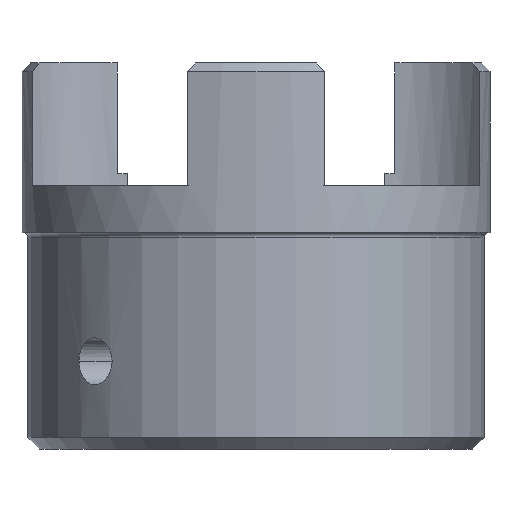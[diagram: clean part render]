
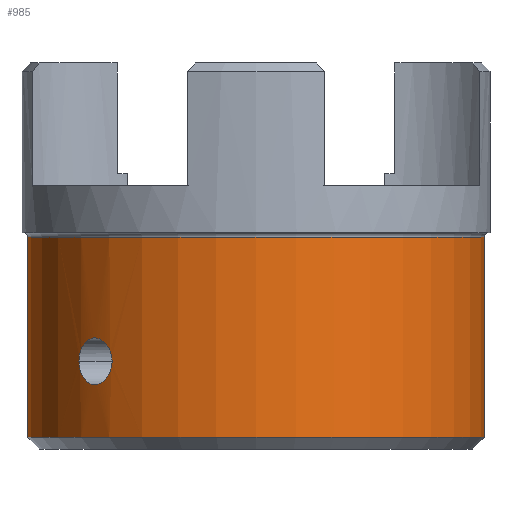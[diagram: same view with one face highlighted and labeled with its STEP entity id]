
A CAD part, left-side view. The second image highlights one B-rep face of the part: STEP entity #985.
In plain terms, the highlighted cylindrical face has radius 39 mm (diameter 78 mm), a partial arc.
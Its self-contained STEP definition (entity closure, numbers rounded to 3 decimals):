
#162=CARTESIAN_POINT('',(0.,0.,-43.));
#163=DIRECTION('',(0.,0.,1.));
#164=DIRECTION('',(0.,1.,0.));
#165=AXIS2_PLACEMENT_3D('',#162,#163,#164);
#180=DIRECTION('',(0.,0.,1.));
#181=VECTOR('',#180,34.2);
#182=CARTESIAN_POINT('',(0.,-39.,-43.));
#183=LINE('',#182,#181);
#184=DIRECTION('',(0.,0.,1.));
#185=VECTOR('',#184,34.2);
#186=CARTESIAN_POINT('',(0.,39.,-43.));
#187=LINE('',#186,#185);
#188=CARTESIAN_POINT('',(-24.603,30.26,-30.));
#189=CARTESIAN_POINT('',(-24.603,30.26,-29.673));
#190=CARTESIAN_POINT('',(-24.664,30.211,-29.038));
#191=CARTESIAN_POINT('',(-24.932,29.991,-28.124));
#192=CARTESIAN_POINT('',(-25.357,29.634,-27.322));
#193=CARTESIAN_POINT('',(-25.91,29.153,-26.675));
#194=CARTESIAN_POINT('',(-26.55,28.572,-26.223));
#195=CARTESIAN_POINT('',(-27.234,27.921,-25.99));
#196=CARTESIAN_POINT('',(-27.921,27.234,-25.99));
#197=CARTESIAN_POINT('',(-28.572,26.55,-26.223));
#198=CARTESIAN_POINT('',(-29.153,25.91,-26.675));
#199=CARTESIAN_POINT('',(-29.634,25.357,-27.322));
#200=CARTESIAN_POINT('',(-29.991,24.932,-28.124));
#201=CARTESIAN_POINT('',(-30.211,24.664,-29.038));
#202=CARTESIAN_POINT('',(-30.26,24.603,-29.673));
#203=CARTESIAN_POINT('',(-30.26,24.603,-30.));
#205=CARTESIAN_POINT('',(-24.603,30.26,-30.));
#206=CARTESIAN_POINT('',(-24.603,30.26,-30.327));
#207=CARTESIAN_POINT('',(-24.664,30.211,-30.962));
#208=CARTESIAN_POINT('',(-24.932,29.991,-31.876));
#209=CARTESIAN_POINT('',(-25.357,29.634,-32.678));
#210=CARTESIAN_POINT('',(-25.91,29.153,-33.325));
#211=CARTESIAN_POINT('',(-26.55,28.572,-33.777));
#212=CARTESIAN_POINT('',(-27.234,27.921,-34.01));
#213=CARTESIAN_POINT('',(-27.921,27.234,-34.01));
#214=CARTESIAN_POINT('',(-28.572,26.55,-33.777));
#215=CARTESIAN_POINT('',(-29.153,25.91,-33.325));
#216=CARTESIAN_POINT('',(-29.634,25.357,-32.678));
#217=CARTESIAN_POINT('',(-29.991,24.932,-31.876));
#218=CARTESIAN_POINT('',(-30.211,24.664,-30.962));
#219=CARTESIAN_POINT('',(-30.26,24.603,-30.327));
#220=CARTESIAN_POINT('',(-30.26,24.603,-30.));
#227=CARTESIAN_POINT('',(0.,0.,-8.8));
#228=DIRECTION('',(0.,0.,-1.));
#229=DIRECTION('',(0.,-1.,0.));
#230=AXIS2_PLACEMENT_3D('',#227,#228,#229);
#633=CARTESIAN_POINT('',(0.,39.,-43.));
#634=CARTESIAN_POINT('',(0.,-39.,-43.));
#635=VERTEX_POINT('',#633);
#636=VERTEX_POINT('',#634);
#645=CARTESIAN_POINT('',(0.,-39.,-8.8));
#646=CARTESIAN_POINT('',(0.,39.,-8.8));
#647=VERTEX_POINT('',#645);
#648=VERTEX_POINT('',#646);
#677=VERTEX_POINT('',#188);
#678=VERTEX_POINT('',#203);
#965=CARTESIAN_POINT('',(0.,0.,-6.15));
#966=DIRECTION('',(0.,0.,-1.));
#967=DIRECTION('',(0.,-1.,0.));
#968=AXIS2_PLACEMENT_3D('',#965,#966,#967);
#969=CYLINDRICAL_SURFACE('',#968,39.);
#971=ORIENTED_EDGE('',*,*,#970,.F.);
#973=ORIENTED_EDGE('',*,*,#972,.F.);
#974=ORIENTED_EDGE('',*,*,#955,.F.);
#976=ORIENTED_EDGE('',*,*,#975,.T.);
#977=EDGE_LOOP('',(#971,#973,#974,#976));
#978=FACE_OUTER_BOUND('',#977,.F.);
#980=ORIENTED_EDGE('',*,*,#979,.F.);
#982=ORIENTED_EDGE('',*,*,#981,.T.);
#983=EDGE_LOOP('',(#980,#982));
#984=FACE_BOUND('',#983,.F.);
#985=ADVANCED_FACE('',(#978,#984),#969,.T.);
#166=CIRCLE('',#165,39.);
#204=B_SPLINE_CURVE_WITH_KNOTS('',3,(#188,#189,#190,#191,#192,#193,#194,#195,
#196,#197,#198,#199,#200,#201,#202,#203),.UNSPECIFIED.,.F.,.F.,(4,1,1,1,1,1,1,1,
1,1,1,1,1,4),(0.,0.077,0.154,0.231,
0.308,0.385,0.462,0.538,
0.615,0.692,0.769,0.846,
0.923,1.),.UNSPECIFIED.);
#221=B_SPLINE_CURVE_WITH_KNOTS('',3,(#205,#206,#207,#208,#209,#210,#211,#212,
#213,#214,#215,#216,#217,#218,#219,#220),.UNSPECIFIED.,.F.,.F.,(4,1,1,1,1,1,1,1,
1,1,1,1,1,4),(0.,0.077,0.154,0.231,
0.308,0.385,0.462,0.538,
0.615,0.692,0.769,0.846,
0.923,1.),.UNSPECIFIED.);
#231=CIRCLE('',#230,39.);
#955=EDGE_CURVE('',#635,#636,#166,.T.);
#970=EDGE_CURVE('',#647,#648,#231,.T.);
#972=EDGE_CURVE('',#636,#647,#183,.T.);
#975=EDGE_CURVE('',#635,#648,#187,.T.);
#979=EDGE_CURVE('',#677,#678,#204,.T.);
#981=EDGE_CURVE('',#677,#678,#221,.T.);
